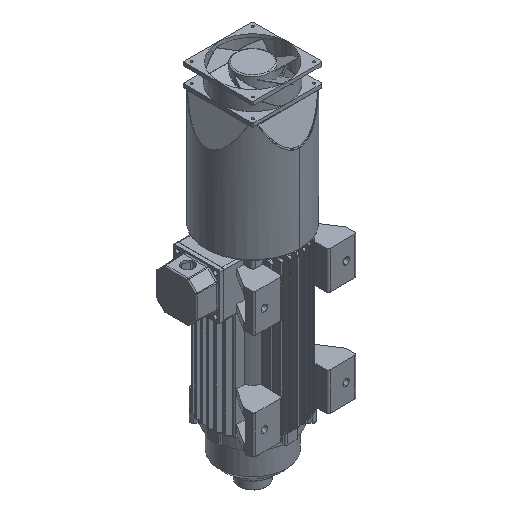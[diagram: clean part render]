
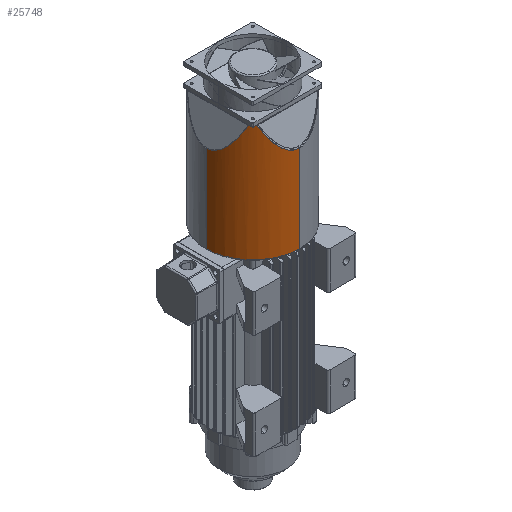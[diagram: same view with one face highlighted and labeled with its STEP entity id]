
A CAD part, isometric view. The second image highlights one B-rep face of the part: STEP entity #25748.
In plain terms, the highlighted cylindrical face has radius 80 mm (diameter 160 mm), a partial arc.
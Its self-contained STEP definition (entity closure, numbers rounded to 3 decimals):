
#332 = CARTESIAN_POINT ( 'NONE',  ( 0., 0., 0. ) ) ;
#1288 = CARTESIAN_POINT ( 'NONE',  ( 0., 150., 80. ) ) ;
#2178 = CARTESIAN_POINT ( 'NONE',  ( 52.915, 200., 60. ) ) ;
#3075 = CARTESIAN_POINT ( 'NONE',  ( 38.137, 167.417, 73.033 ) ) ;
#3244 = CARTESIAN_POINT ( 'NONE',  ( 0., 200., 0. ) ) ;
#3452 = CARTESIAN_POINT ( 'NONE',  ( 80., 200., 0.18 ) ) ;
#3455 = VECTOR ( 'NONE', #40334, 1000. ) ;
#4837 =( BOUNDED_CURVE ( )  B_SPLINE_CURVE ( 3, ( #36233, #32017, #27808, #23600 ),
 .UNSPECIFIED., .F., .T. ) 
 B_SPLINE_CURVE_WITH_KNOTS ( ( 4, 4 ),
 ( 0.002, 0.723 ),
 .UNSPECIFIED. ) 
 CURVE ( )  GEOMETRIC_REPRESENTATION_ITEM ( )  RATIONAL_B_SPLINE_CURVE ( ( 1., 0.957, 0.957, 1. ) ) 
 REPRESENTATION_ITEM ( '' )  );
#5063 = CARTESIAN_POINT ( 'NONE',  ( 60., 200., 52.915 ) ) ;
#5880 = ORIENTED_EDGE ( 'NONE', *, *, #13959, .T. ) ;
#6019 = VERTEX_POINT ( 'NONE', #17423 ) ;
#7309 = CARTESIAN_POINT ( 'NONE',  ( 19.705, 150., 80. ) ) ;
#7475 = CIRCLE ( 'NONE', #30156, 80. ) ;
#7681 = LINE ( 'NONE', #3452, #3455 ) ;
#10956 = EDGE_LOOP ( 'NONE', ( #39857, #12340, #5880, #12917, #16634, #22197 ) ) ;
#10985 = EDGE_CURVE ( 'NONE', #27812, #17956, #4837, .T. ) ;
#11537 = CARTESIAN_POINT ( 'NONE',  ( 0., 150., 80. ) ) ;
#12340 = ORIENTED_EDGE ( 'NONE', *, *, #28335, .T. ) ;
#12917 = ORIENTED_EDGE ( 'NONE', *, *, #37672, .F. ) ;
#13959 = EDGE_CURVE ( 'NONE', #6019, #21113, #7475, .T. ) ;
#14110 = FACE_OUTER_BOUND ( 'NONE', #10956, .T. ) ;
#14202 =( BOUNDED_CURVE ( )  B_SPLINE_CURVE ( 3, ( #11537, #7309, #3075, #39952 ),
 .UNSPECIFIED., .F., .F. ) 
 B_SPLINE_CURVE_WITH_KNOTS ( ( 4, 4 ),
 ( 0., 0.723 ),
 .UNSPECIFIED. ) 
 CURVE ( )  GEOMETRIC_REPRESENTATION_ITEM ( )  RATIONAL_B_SPLINE_CURVE ( ( 1., 0.957, 0.957, 1. ) ) 
 REPRESENTATION_ITEM ( '' )  );
#15173 = AXIS2_PLACEMENT_3D ( 'NONE', #29667, #25450, #21318 ) ;
#15769 = CARTESIAN_POINT ( 'NONE',  ( 80., 0., 0.18 ) ) ;
#16080 = VERTEX_POINT ( 'NONE', #1288 ) ;
#16229 = CYLINDRICAL_SURFACE ( 'NONE', #15173, 80. ) ;
#16634 = ORIENTED_EDGE ( 'NONE', *, *, #10985, .T. ) ;
#17423 = CARTESIAN_POINT ( 'NONE',  ( 0., 0., 80. ) ) ;
#17956 = VERTEX_POINT ( 'NONE', #5063 ) ;
#18606 = EDGE_CURVE ( 'NONE', #25984, #17956, #33198, .T. ) ;
#20592 = DIRECTION ( 'NONE',  ( 0., -1., 0. ) ) ;
#21113 = VERTEX_POINT ( 'NONE', #15769 ) ;
#21318 = DIRECTION ( 'NONE',  ( 0., 0., -1. ) ) ;
#22197 = ORIENTED_EDGE ( 'NONE', *, *, #18606, .F. ) ;
#23234 = DIRECTION ( 'NONE',  ( 0., 0., 1. ) ) ;
#23600 = CARTESIAN_POINT ( 'NONE',  ( 60., 200., 52.915 ) ) ;
#24724 = CARTESIAN_POINT ( 'NONE',  ( 0., 200., 80. ) ) ;
#25450 = DIRECTION ( 'NONE',  ( 0., -1., 0. ) ) ;
#25748 = ADVANCED_FACE ( 'NONE', ( #14110 ), #16229, .T. ) ;
#25984 = VERTEX_POINT ( 'NONE', #2178 ) ;
#27440 = DIRECTION ( 'NONE',  ( 0., 1., 0. ) ) ;
#27808 = CARTESIAN_POINT ( 'NONE',  ( 72.991, 167.522, 38.184 ) ) ;
#27812 = VERTEX_POINT ( 'NONE', #34726 ) ;
#28335 = EDGE_CURVE ( 'NONE', #16080, #6019, #33114, .T. ) ;
#29667 = CARTESIAN_POINT ( 'NONE',  ( 0., 200., 0. ) ) ;
#30156 = AXIS2_PLACEMENT_3D ( 'NONE', #332, #37222, #32965 ) ;
#32017 = CARTESIAN_POINT ( 'NONE',  ( 79.956, 150.111, 19.82 ) ) ;
#32350 = AXIS2_PLACEMENT_3D ( 'NONE', #3244, #27440, #23234 ) ;
#32965 = DIRECTION ( 'NONE',  ( 0., 0., 1. ) ) ;
#33114 = LINE ( 'NONE', #24724, #39342 ) ;
#33198 = CIRCLE ( 'NONE', #32350, 80. ) ;
#34726 = CARTESIAN_POINT ( 'NONE',  ( 80., 150.001, 0.18 ) ) ;
#36233 = CARTESIAN_POINT ( 'NONE',  ( 80., 150.001, 0.18 ) ) ;
#37222 = DIRECTION ( 'NONE',  ( 0., 1., 0. ) ) ;
#37672 = EDGE_CURVE ( 'NONE', #27812, #21113, #7681, .T. ) ;
#38782 = EDGE_CURVE ( 'NONE', #16080, #25984, #14202, .T. ) ;
#39342 = VECTOR ( 'NONE', #20592, 1000. ) ;
#39857 = ORIENTED_EDGE ( 'NONE', *, *, #38782, .F. ) ;
#39952 = CARTESIAN_POINT ( 'NONE',  ( 52.915, 200., 60. ) ) ;
#40334 = DIRECTION ( 'NONE',  ( 0., -1., 0. ) ) ;
